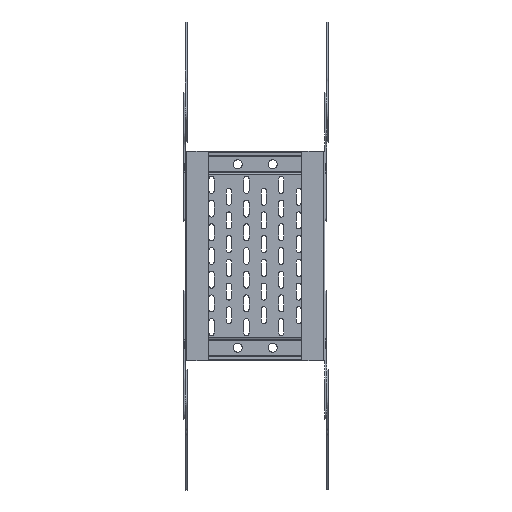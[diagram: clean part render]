
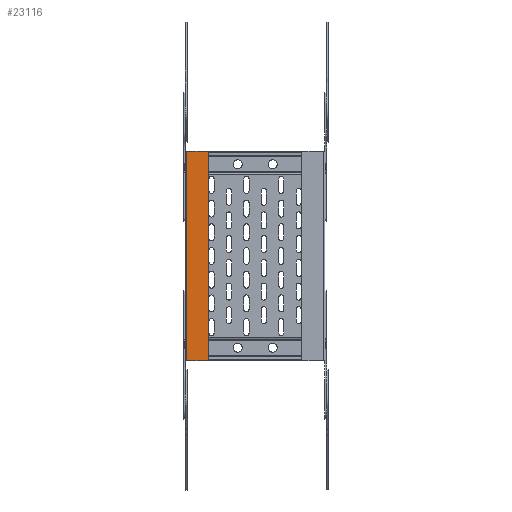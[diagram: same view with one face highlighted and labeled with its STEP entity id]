
A CAD part, front view. The second image highlights one B-rep face of the part: STEP entity #23116.
In plain terms, the highlighted planar face has unit normal (0, -1, 0).
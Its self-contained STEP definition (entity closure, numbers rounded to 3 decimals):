
#530 = EDGE_CURVE ( 'NONE', #14345, #17921, #7745, .T. ) ;
#563 = VECTOR ( 'NONE', #16933, 1000. ) ;
#653 = CARTESIAN_POINT ( 'NONE',  ( 0., -1.5, 150. ) ) ;
#2463 = PLANE ( 'NONE',  #8138 ) ;
#3038 = CARTESIAN_POINT ( 'NONE',  ( -31.5, -1.5, -150. ) ) ;
#3600 = VECTOR ( 'NONE', #23404, 1000. ) ;
#3760 = ORIENTED_EDGE ( 'NONE', *, *, #530, .F. ) ;
#4830 = ORIENTED_EDGE ( 'NONE', *, *, #9953, .T. ) ;
#6585 = ORIENTED_EDGE ( 'NONE', *, *, #24805, .T. ) ;
#7193 = CARTESIAN_POINT ( 'NONE',  ( -31.5, -1.5, -150. ) ) ;
#7745 = LINE ( 'NONE', #15206, #563 ) ;
#8138 = AXIS2_PLACEMENT_3D ( 'NONE', #22369, #24377, #12461 ) ;
#8174 = VECTOR ( 'NONE', #19086, 1000. ) ;
#9953 = EDGE_CURVE ( 'NONE', #22107, #20371, #25502, .T. ) ;
#11530 = EDGE_LOOP ( 'NONE', ( #3760, #14613, #4830, #6585 ) ) ;
#12461 = DIRECTION ( 'NONE',  ( 1., 0., 0. ) ) ;
#14174 = LINE ( 'NONE', #21384, #3600 ) ;
#14303 = VECTOR ( 'NONE', #20891, 1000. ) ;
#14345 = VERTEX_POINT ( 'NONE', #15689 ) ;
#14613 = ORIENTED_EDGE ( 'NONE', *, *, #20908, .F. ) ;
#15206 = CARTESIAN_POINT ( 'NONE',  ( 0., -1.5, 150. ) ) ;
#15689 = CARTESIAN_POINT ( 'NONE',  ( -31.5, -1.5, 150. ) ) ;
#16933 = DIRECTION ( 'NONE',  ( 1., 0., 0. ) ) ;
#17694 = FACE_OUTER_BOUND ( 'NONE', #11530, .T. ) ;
#17921 = VERTEX_POINT ( 'NONE', #653 ) ;
#18735 = LINE ( 'NONE', #7193, #8174 ) ;
#18894 = CARTESIAN_POINT ( 'NONE',  ( 0., -1.5, -150. ) ) ;
#19086 = DIRECTION ( 'NONE',  ( 0., 0., 1. ) ) ;
#20371 = VERTEX_POINT ( 'NONE', #23065 ) ;
#20891 = DIRECTION ( 'NONE',  ( 1., 0., 0. ) ) ;
#20908 = EDGE_CURVE ( 'NONE', #22107, #14345, #18735, .T. ) ;
#21384 = CARTESIAN_POINT ( 'NONE',  ( 0., -1.5, -150. ) ) ;
#22107 = VERTEX_POINT ( 'NONE', #3038 ) ;
#22369 = CARTESIAN_POINT ( 'NONE',  ( 0., -1.5, -150. ) ) ;
#23065 = CARTESIAN_POINT ( 'NONE',  ( 0., -1.5, -150. ) ) ;
#23116 = ADVANCED_FACE ( 'NONE', ( #17694 ), #2463, .T. ) ;
#23404 = DIRECTION ( 'NONE',  ( 0., 0., 1. ) ) ;
#24377 = DIRECTION ( 'NONE',  ( 0., -1., 0. ) ) ;
#24805 = EDGE_CURVE ( 'NONE', #20371, #17921, #14174, .T. ) ;
#25502 = LINE ( 'NONE', #18894, #14303 ) ;
